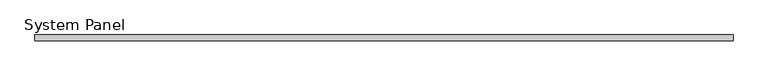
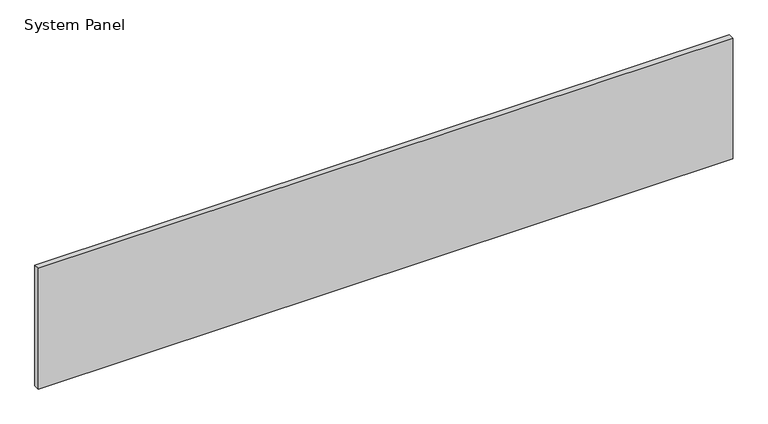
"""IFC4 building model written with IfcOpenShell, lengths in millimetres: plate geometry, System Panel : Inspire 50mm Horizontal - Plain RHEA-PIR."""

from ifc_helpers import new_model, si_unit, origin, origin_with_axes, place, context, project, spatial, polyline, outline, extrude, source, transform, mapped, element, save


def system_panel_697a2945(model_context):
    return source(origin(), model_context, "Body", "SweptSolid", [
        extrude(outline(polyline([(2995.0, 0.0), (-2995.0, 0.0), (-2995.0, 50.0), (2995.0, 50.0), (2995.0, 0.0)])), origin_with_axes(), (0.0, 0.0, 1.0), 1100.0),
    ])


if __name__ == "__main__":
    model = new_model("IFC4")
    model_context = context("Model", 3, world=origin())
    ifc_project = project(units=[si_unit("LENGTHUNIT", "METRE", prefix="MILLI")], contexts=[model_context])
    site = spatial("IfcSite", under=ifc_project)
    building = spatial("IfcBuilding", under=site)
    placement = place(None, origin())
    system_panel_shape = system_panel_697a2945(model_context)
    element("IfcPlate", 1, ObjectType="System Panel : Inspire 50mm Horizontal - Plain RHEA-PIR", at=placement, inside=building, context=model_context, shape_type="MappedRepresentation", body=[
        mapped(system_panel_shape, transform((0.0, 0.0, 0.0), x_axis=(1.0, 0.0, 0.0), y_axis=(0.0, 1.0, 0.0), z_axis=(0.0, 0.0, 1.0))),
    ])
    save(model, "model.ifc")
